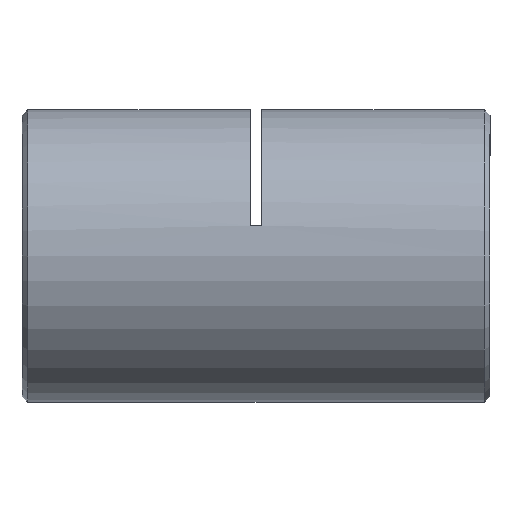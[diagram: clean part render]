
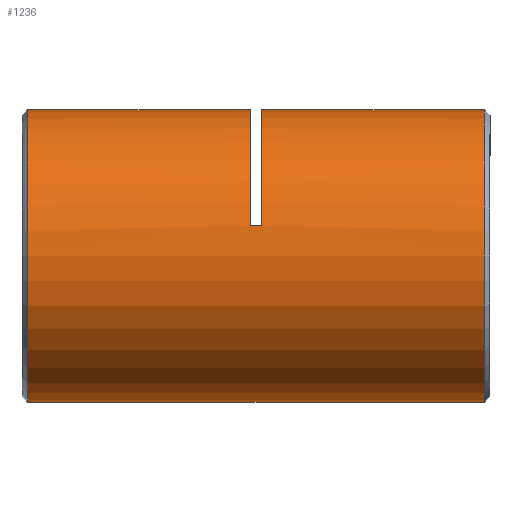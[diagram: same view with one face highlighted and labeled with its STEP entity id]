
A CAD part, left-side view. The second image highlights one B-rep face of the part: STEP entity #1236.
In plain terms, the highlighted cylindrical face has radius 12.5 mm (diameter 25 mm), a partial arc.
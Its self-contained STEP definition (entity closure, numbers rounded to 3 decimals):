
#65 = AXIS2_PLACEMENT_3D ( 'NONE', #5817, #4899, #1751 ) ;
#75 = CARTESIAN_POINT ( 'NONE',  ( 0., 40.5, -12.5 ) ) ;
#213 = CARTESIAN_POINT ( 'NONE',  ( 0., 39.75, 12.5 ) ) ;
#216 = VERTEX_POINT ( 'NONE', #1329 ) ;
#486 = DIRECTION ( 'NONE',  ( 0., 1., 0. ) ) ;
#610 = CARTESIAN_POINT ( 'NONE',  ( 0., 40.5, 12.5 ) ) ;
#671 = CARTESIAN_POINT ( 'NONE',  ( -12.226, 19.75, 2.604 ) ) ;
#716 = VECTOR ( 'NONE', #974, 1000. ) ;
#724 = CIRCLE ( 'NONE', #65, 12.5 ) ;
#866 = FACE_OUTER_BOUND ( 'NONE', #4942, .T. ) ;
#889 = CARTESIAN_POINT ( 'NONE',  ( 0., 40.5, 12.5 ) ) ;
#928 = ORIENTED_EDGE ( 'NONE', *, *, #3472, .T. ) ;
#936 = VERTEX_POINT ( 'NONE', #5472 ) ;
#974 = DIRECTION ( 'NONE',  ( 0., 1., 0. ) ) ;
#975 = DIRECTION ( 'NONE',  ( 0., -1., 0. ) ) ;
#984 = CYLINDRICAL_SURFACE ( 'NONE', #1997, 12.5 ) ;
#1192 = ORIENTED_EDGE ( 'NONE', *, *, #3268, .F. ) ;
#1220 = ORIENTED_EDGE ( 'NONE', *, *, #3539, .T. ) ;
#1236 = ADVANCED_FACE ( 'NONE', ( #866 ), #984, .T. ) ;
#1329 = CARTESIAN_POINT ( 'NONE',  ( 0., 0.75, -12.5 ) ) ;
#1379 = CARTESIAN_POINT ( 'NONE',  ( -12.226, 20.25, 2.604 ) ) ;
#1498 = EDGE_CURVE ( 'NONE', #3623, #216, #3561, .T. ) ;
#1537 = ORIENTED_EDGE ( 'NONE', *, *, #2181, .F. ) ;
#1617 = VECTOR ( 'NONE', #975, 1000. ) ;
#1714 = VECTOR ( 'NONE', #2033, 1000. ) ;
#1751 = DIRECTION ( 'NONE',  ( 0., 0., -1. ) ) ;
#1811 = CIRCLE ( 'NONE', #5697, 12.5 ) ;
#1816 = CARTESIAN_POINT ( 'NONE',  ( 0., 19.75, 12.5 ) ) ;
#1997 = AXIS2_PLACEMENT_3D ( 'NONE', #2780, #3596, #4172 ) ;
#2033 = DIRECTION ( 'NONE',  ( 0., -1., 0. ) ) ;
#2175 = CARTESIAN_POINT ( 'NONE',  ( 0., 19.75, 0. ) ) ;
#2181 = EDGE_CURVE ( 'NONE', #5450, #5650, #5634, .T. ) ;
#2334 = DIRECTION ( 'NONE',  ( 0., -1., 0. ) ) ;
#2379 = CIRCLE ( 'NONE', #3322, 12.5 ) ;
#2498 = VERTEX_POINT ( 'NONE', #1816 ) ;
#2780 = CARTESIAN_POINT ( 'NONE',  ( 0., 40.5, 0. ) ) ;
#3022 = CARTESIAN_POINT ( 'NONE',  ( 0., 20.75, 12.5 ) ) ;
#3065 = CARTESIAN_POINT ( 'NONE',  ( 0., 20.75, 0. ) ) ;
#3213 = LINE ( 'NONE', #1379, #716 ) ;
#3268 = EDGE_CURVE ( 'NONE', #2498, #4900, #4622, .T. ) ;
#3322 = AXIS2_PLACEMENT_3D ( 'NONE', #4646, #4230, #4710 ) ;
#3472 = EDGE_CURVE ( 'NONE', #216, #4900, #2379, .T. ) ;
#3539 = EDGE_CURVE ( 'NONE', #936, #5650, #1811, .T. ) ;
#3561 = LINE ( 'NONE', #75, #4608 ) ;
#3596 = DIRECTION ( 'NONE',  ( 0., -1., 0. ) ) ;
#3608 = AXIS2_PLACEMENT_3D ( 'NONE', #2175, #486, #4971 ) ;
#3623 = VERTEX_POINT ( 'NONE', #3748 ) ;
#3662 = ORIENTED_EDGE ( 'NONE', *, *, #5742, .T. ) ;
#3748 = CARTESIAN_POINT ( 'NONE',  ( 0., 39.75, -12.5 ) ) ;
#3784 = ORIENTED_EDGE ( 'NONE', *, *, #4722, .F. ) ;
#4172 = DIRECTION ( 'NONE',  ( 0., 0., -1. ) ) ;
#4192 = CIRCLE ( 'NONE', #3608, 12.5 ) ;
#4230 = DIRECTION ( 'NONE',  ( 0., 1., 0. ) ) ;
#4543 = VERTEX_POINT ( 'NONE', #671 ) ;
#4557 = CARTESIAN_POINT ( 'NONE',  ( 0., 0.75, 12.5 ) ) ;
#4608 = VECTOR ( 'NONE', #2334, 1000. ) ;
#4622 = LINE ( 'NONE', #889, #1617 ) ;
#4646 = CARTESIAN_POINT ( 'NONE',  ( 0., 0.75, 0. ) ) ;
#4710 = DIRECTION ( 'NONE',  ( 0., 0., 1. ) ) ;
#4722 = EDGE_CURVE ( 'NONE', #4543, #2498, #4192, .T. ) ;
#4759 = ORIENTED_EDGE ( 'NONE', *, *, #4939, .T. ) ;
#4899 = DIRECTION ( 'NONE',  ( 0., -1., 0. ) ) ;
#4900 = VERTEX_POINT ( 'NONE', #4557 ) ;
#4939 = EDGE_CURVE ( 'NONE', #4543, #936, #3213, .T. ) ;
#4942 = EDGE_LOOP ( 'NONE', ( #1537, #3662, #5150, #928, #1192, #3784, #4759, #1220 ) ) ;
#4971 = DIRECTION ( 'NONE',  ( 0., 0., 1. ) ) ;
#5150 = ORIENTED_EDGE ( 'NONE', *, *, #1498, .T. ) ;
#5295 = DIRECTION ( 'NONE',  ( 0., 1., 0. ) ) ;
#5363 = DIRECTION ( 'NONE',  ( 0., 0., 1. ) ) ;
#5450 = VERTEX_POINT ( 'NONE', #213 ) ;
#5472 = CARTESIAN_POINT ( 'NONE',  ( -12.226, 20.75, 2.604 ) ) ;
#5634 = LINE ( 'NONE', #610, #1714 ) ;
#5650 = VERTEX_POINT ( 'NONE', #3022 ) ;
#5697 = AXIS2_PLACEMENT_3D ( 'NONE', #3065, #5295, #5363 ) ;
#5742 = EDGE_CURVE ( 'NONE', #5450, #3623, #724, .T. ) ;
#5817 = CARTESIAN_POINT ( 'NONE',  ( 0., 39.75, 0. ) ) ;
